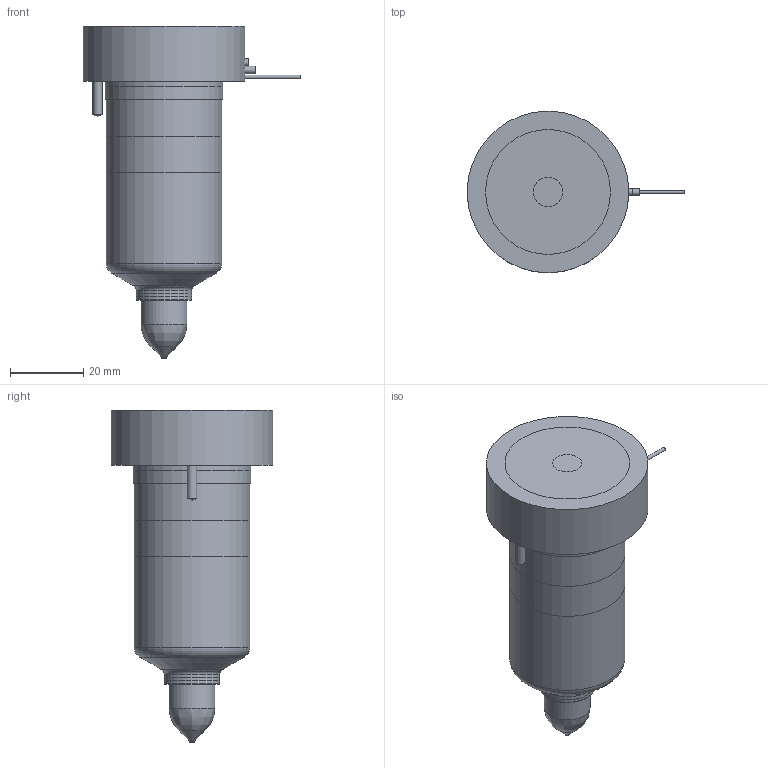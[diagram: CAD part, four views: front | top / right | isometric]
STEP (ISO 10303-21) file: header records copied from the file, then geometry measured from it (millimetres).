
FILE_DESCRIPTION(/* description */ (''),/* implementation_level */ '2;1');
FILE_NAME(/* name */ 'MXTT-MXIT19065-10_200C_b',/* time_stamp */ '2007-01-18T09:52:57+13:00',/* author */ (''),/* organization */ (''),/* preprocessor_version */ 'ST-DEVELOPER v9',/* originating_system */ 'UGS - NX 4.0',/* authorisation */ '');
FILE_SCHEMA (('CONFIG_CONTROL_DESIGN'));
Length unit declared in the file: millimetre
Products named in the file (1): MXTT-MXIT19065-10_200C_b
Bounding box: 59.25 x 44 x 90.4 mm (x, y, z)
Volume: 120422.5 mm3; surface area: 23769.5 mm2
Topology: 7 solids, 7 shells, 86 faces, 162 edges, 102 vertices
Faces by surface type: plane 35, cylinder 29, cone 12, torus 8, bspline 2
Full cylindrical faces by diameter (mm): 1 x3, 1.2 x1, 2 x2, 2.5 x2, 8 x1, 9 x1, 12.5 x1, 14.61 x1, 15.01 x2, 18.3 x1, 25.4 x1, 31.5 x2, 32 x2, 44 x1
Entity records: 2069 total; most frequent: CARTESIAN_POINT 427, DIRECTION 352, ORIENTED_EDGE 228, AXIS2_PLACEMENT_3D 163, EDGE_LOOP 138, EDGE_CURVE 114, VERTEX_POINT 95, ADVANCED_FACE 86
